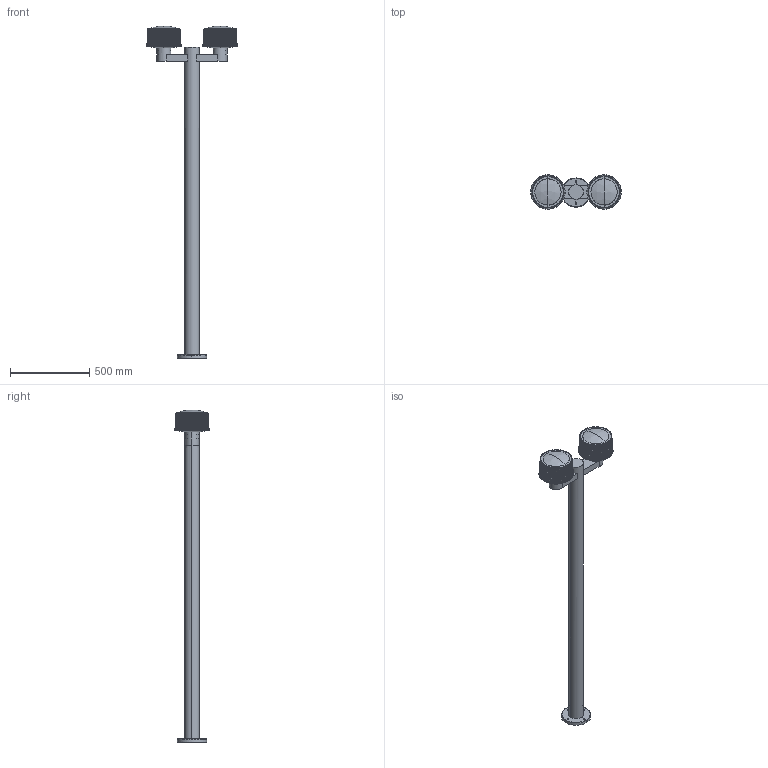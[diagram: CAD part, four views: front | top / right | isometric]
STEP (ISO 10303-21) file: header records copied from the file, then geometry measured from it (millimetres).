
FILE_DESCRIPTION(/* description */ (''),/* implementation_level */ '2;1');
FILE_NAME(/* name */ 'C:\Users\FrancoSartori\Documents\FARO\01_En Proceso\00_MOON BLUB´S MUFFIN MISTU\03_Publicación\74435F2-04.stp',/* time_stamp */ '2021-05-11T12:23:09+02:00',/* author */ ('FrancoSartori'),/* organization */ (''),/* preprocessor_version */ 'ST-DEVELOPER v18.1',/* originating_system */ 'AutoCAD Mechanical',/* authorisation */ '');
FILE_SCHEMA (('AUTOMOTIVE_DESIGN { 1 0 10303 214 3 1 1 }'));
Length unit declared in the file: millimetre
Products named in the file (4): Product; 74435_ - LAMP-471772-Export; 74429_MUFFIN - MUFFIN-473308-Export; 74429_MUFFIN - MUFFIN-473309-Export
Assembly tree (3 placements, depth 2):
  Product
    74435_ - LAMP-471772-Export
    74429_MUFFIN - MUFFIN-473308-Export
    74429_MUFFIN - MUFFIN-473309-Export
Bounding box: 572.66 x 217.49 x 2100.93 mm (x, y, z)
Volume: 15961182.5 mm3; surface area: 1442012.3 mm2
Topology: 5 solids, 5 shells, 436 faces, 1236 edges, 814 vertices
Faces by surface type: plane 380, cylinder 36, bspline 8, cone 6, sphere 4, torus 2
Entity records: 14525 total; most frequent: CARTESIAN_POINT 3011, ORIENTED_EDGE 2472, DIRECTION 2236, EDGE_CURVE 1236, LINE 1082, VECTOR 1082, VERTEX_POINT 814, AXIS2_PLACEMENT_3D 577
